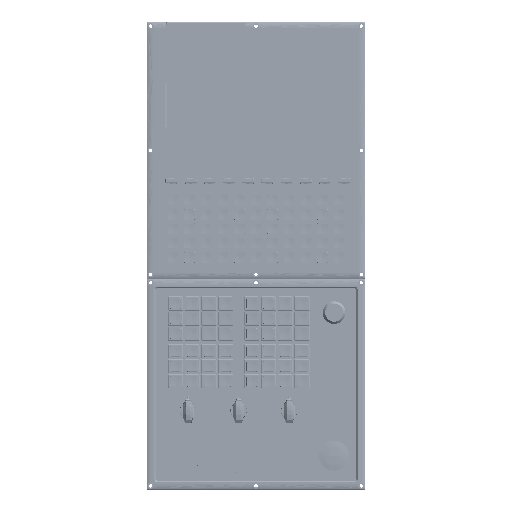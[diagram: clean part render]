
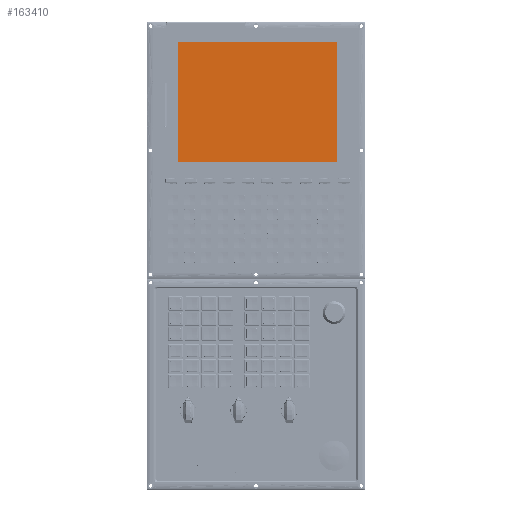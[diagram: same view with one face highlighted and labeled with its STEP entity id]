
A CAD part, top view. The second image highlights one B-rep face of the part: STEP entity #163410.
In plain terms, the highlighted planar face has unit normal (0, 0, 1).
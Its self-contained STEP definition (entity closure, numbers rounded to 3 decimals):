
#4034 = VERTEX_POINT ( 'NONE', #36583 ) ;
#11645 = LINE ( 'NONE', #120065, #414422 ) ;
#14739 = CARTESIAN_POINT ( 'NONE',  ( 107.9, 150.7, 1.82 ) ) ;
#22158 = EDGE_LOOP ( 'NONE', ( #117559, #29034, #491937, #381975 ) ) ;
#29034 = ORIENTED_EDGE ( 'NONE', *, *, #84665, .F. ) ;
#36583 = CARTESIAN_POINT ( 'NONE',  ( -103.3, 143.5, 1.82 ) ) ;
#69533 = LINE ( 'NONE', #170641, #163999 ) ;
#84665 = EDGE_CURVE ( 'NONE', #176284, #386453, #69533, .T. ) ;
#115089 = CARTESIAN_POINT ( 'NONE',  ( 115.1, 143.5, 1.82 ) ) ;
#117559 = ORIENTED_EDGE ( 'NONE', *, *, #316767, .F. ) ;
#120065 = CARTESIAN_POINT ( 'NONE',  ( -103.3, 150.7, 1.82 ) ) ;
#160663 = DIRECTION ( 'NONE',  ( 0., 1., 0. ) ) ;
#163410 = ADVANCED_FACE ( 'NONE', ( #393266 ), #175745, .T. ) ;
#163999 = VECTOR ( 'NONE', #247970, 1000. ) ;
#170641 = CARTESIAN_POINT ( 'NONE',  ( 115.1, -14.9, 1.82 ) ) ;
#175745 = PLANE ( 'NONE',  #414618 ) ;
#176284 = VERTEX_POINT ( 'NONE', #357334 ) ;
#247970 = DIRECTION ( 'NONE',  ( -1., 0., 0. ) ) ;
#250612 = CARTESIAN_POINT ( 'NONE',  ( 107.9, 143.5, 1.82 ) ) ;
#256599 = DIRECTION ( 'NONE',  ( 1., 0., 0. ) ) ;
#296197 = DIRECTION ( 'NONE',  ( 0., -1., 0. ) ) ;
#302285 = CARTESIAN_POINT ( 'NONE',  ( -103.3, -14.9, 1.82 ) ) ;
#316767 = EDGE_CURVE ( 'NONE', #386453, #4034, #11645, .T. ) ;
#357334 = CARTESIAN_POINT ( 'NONE',  ( 107.9, -14.9, 1.82 ) ) ;
#361167 = VERTEX_POINT ( 'NONE', #250612 ) ;
#381975 = ORIENTED_EDGE ( 'NONE', *, *, #472390, .F. ) ;
#386453 = VERTEX_POINT ( 'NONE', #302285 ) ;
#390202 = VECTOR ( 'NONE', #296197, 1000. ) ;
#393266 = FACE_OUTER_BOUND ( 'NONE', #22158, .T. ) ;
#396581 = DIRECTION ( 'NONE',  ( 1., 0., 0. ) ) ;
#414422 = VECTOR ( 'NONE', #160663, 1000. ) ;
#414618 = AXIS2_PLACEMENT_3D ( 'NONE', #457187, #497577, #256599 ) ;
#451653 = LINE ( 'NONE', #115089, #464204 ) ;
#457187 = CARTESIAN_POINT ( 'NONE',  ( 115.1, 150.7, 1.82 ) ) ;
#464204 = VECTOR ( 'NONE', #396581, 1000. ) ;
#472390 = EDGE_CURVE ( 'NONE', #4034, #361167, #451653, .T. ) ;
#484562 = LINE ( 'NONE', #14739, #390202 ) ;
#491937 = ORIENTED_EDGE ( 'NONE', *, *, #492194, .F. ) ;
#492194 = EDGE_CURVE ( 'NONE', #361167, #176284, #484562, .T. ) ;
#497577 = DIRECTION ( 'NONE',  ( 0., 0., 1. ) ) ;
